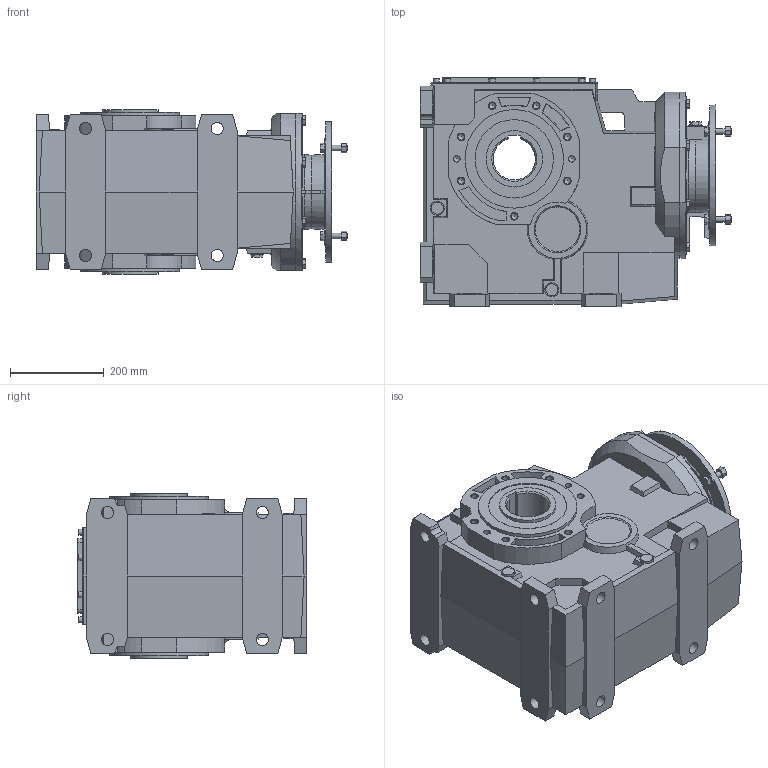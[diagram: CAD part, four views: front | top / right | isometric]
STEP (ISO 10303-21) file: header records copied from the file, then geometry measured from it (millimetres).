
FILE_DESCRIPTION(/* description */ ('STEP AP214'),/* implementation_level */ '2;1');
FILE_NAME(/* name */ 'B153UC132 B5900000000NO----(---------------)',/* time_stamp */ '2024-11-18T12:12:23+01:00',/* author */ ('License CC BY-ND 4.0'),/* organization */ ('CADENAS'),/* preprocessor_version */ 'ST-DEVELOPER v19.3',/* originating_system */ 'PARTsolutions',/* authorisation */ ' ');
FILE_SCHEMA (('AUTOMOTIVE_DESIGN {1 0 10303 214 3 1 1}'));
Length unit declared in the file: millimetre
Products named in the file (5): B153UC132 B5900000000NO----(---------------); 153-U-120; 153-90-C; 153-B-300x38(132 B51); B153-300x38
Assembly tree (4 placements, depth 2):
  B153UC132 B5900000000NO----(---------------)
    153-U-120
    153-90-C
    153-B-300x38(132 B51)
    B153-300x38
Bounding box: 663 x 489.5 x 350 mm (x, y, z)
Volume: 65705673.6 mm3; surface area: 2134778.3 mm2
Topology: 4 solids, 4 shells, 750 faces, 1931 edges, 1270 vertices
Faces by surface type: plane 530, cylinder 156, cone 63, torus 1
Full cylindrical faces by diameter (mm): 9.1 x3, 12 x8, 13 x12, 13.835 x14, 14 x4, 26 x11, 28 x2, 30 x5, 46 x1, 55 x1, 120 x2, 167.082 x2, 210 x2, 230 x1, 300 x1, 305 x2
Entity records: 27207 total; most frequent: CARTESIAN_POINT 4040, DIRECTION 3643, ORIENTED_EDGE 3566, EDGE_CURVE 1783, LINE 1279, VECTOR 1279, VERTEX_POINT 1251, AXIS2_PLACEMENT_3D 1182
